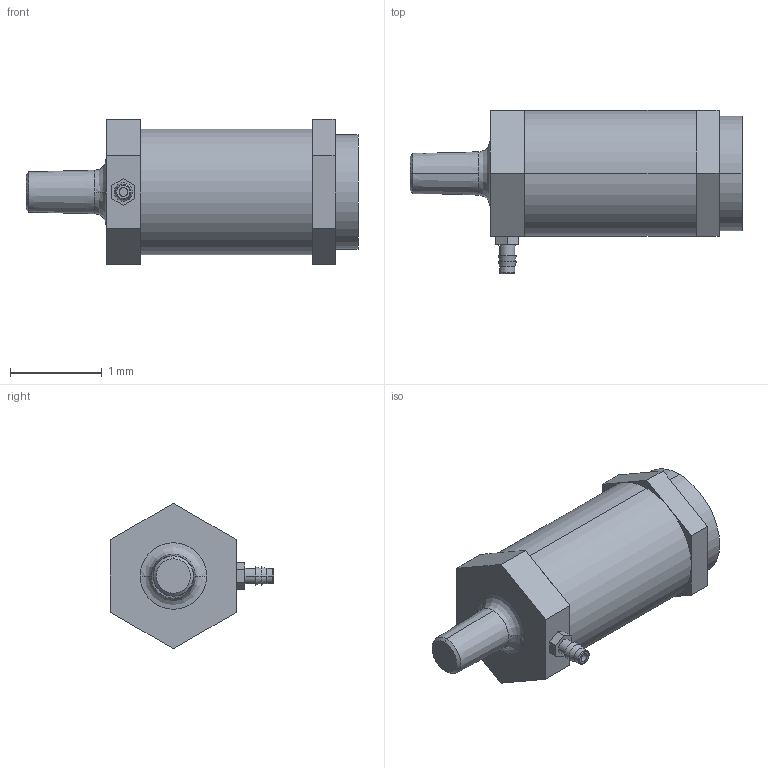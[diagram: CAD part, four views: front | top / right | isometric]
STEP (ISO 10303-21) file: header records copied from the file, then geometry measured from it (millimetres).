
FILE_DESCRIPTION((''),'2;1');
FILE_NAME('UB3.stp','2017-11-07T11:09:37',(''),(''),'Mechanical Desktop 2011','Mechanical Desktop 2011',', , ');
FILE_SCHEMA(('CONFIG_CONTROL_DESIGN'));
Length unit declared in the file: millimetre
Products named in the file (1): Product
Bounding box: 3.62 x 1.78 x 1.59 mm (x, y, z)
Volume: 4.3 mm3; surface area: 25.7 mm2
Topology: 5 solids, 5 shells, 54 faces, 115 edges, 75 vertices
Faces by surface type: plane 32, cylinder 10, cone 8, torus 2, bspline 2
Entity records: 1633 total; most frequent: CARTESIAN_POINT 333, DIRECTION 264, ORIENTED_EDGE 230, EDGE_CURVE 115, AXIS2_PLACEMENT_3D 96, VERTEX_POINT 75, VECTOR 72, LINE 72
